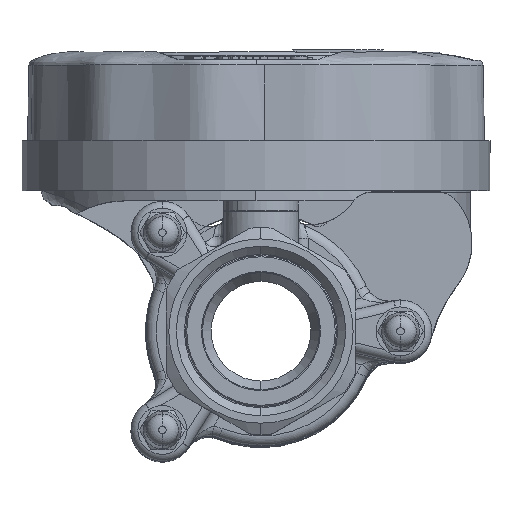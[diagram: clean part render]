
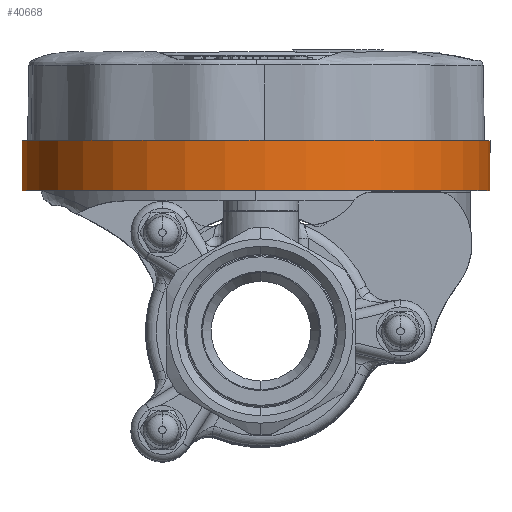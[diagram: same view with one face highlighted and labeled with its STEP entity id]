
A CAD part, top view. The second image highlights one B-rep face of the part: STEP entity #40668.
In plain terms, the highlighted cylindrical face has radius 47 mm (diameter 94 mm), a partial arc.
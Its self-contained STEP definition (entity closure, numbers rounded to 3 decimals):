
#72 = VECTOR ( 'NONE', #14882, 1000. ) ;
#1484 = DIRECTION ( 'NONE',  ( 0., -1., 0. ) ) ;
#3179 = ORIENTED_EDGE ( 'NONE', *, *, #10709, .F. ) ;
#4637 = CARTESIAN_POINT ( 'NONE',  ( -1., 28.3, 9.1 ) ) ;
#6469 = CARTESIAN_POINT ( 'NONE',  ( 45.963, 28.3, 7.235 ) ) ;
#6742 = AXIS2_PLACEMENT_3D ( 'NONE', #28143, #1484, #32667 ) ;
#8410 = DIRECTION ( 'NONE',  ( 0., -1., 0. ) ) ;
#9370 = CIRCLE ( 'NONE', #6742, 47. ) ;
#10709 = EDGE_CURVE ( 'NONE', #52523, #12108, #23735, .T. ) ;
#12108 = VERTEX_POINT ( 'NONE', #45381 ) ;
#12538 = FACE_OUTER_BOUND ( 'NONE', #54024, .T. ) ;
#14882 = DIRECTION ( 'NONE',  ( 0., -1., 0. ) ) ;
#15529 = EDGE_CURVE ( 'NONE', #25360, #12108, #49896, .T. ) ;
#18977 = CARTESIAN_POINT ( 'NONE',  ( -47.963, 38.3, 10.965 ) ) ;
#19873 = CARTESIAN_POINT ( 'NONE',  ( -47.963, 38.3, 10.965 ) ) ;
#23735 = CIRCLE ( 'NONE', #38430, 47. ) ;
#24326 = ORIENTED_EDGE ( 'NONE', *, *, #53664, .F. ) ;
#24412 = DIRECTION ( 'NONE',  ( 0., -1., 0. ) ) ;
#25360 = VERTEX_POINT ( 'NONE', #19873 ) ;
#26000 = ORIENTED_EDGE ( 'NONE', *, *, #15529, .T. ) ;
#26003 = VERTEX_POINT ( 'NONE', #36725 ) ;
#27156 = AXIS2_PLACEMENT_3D ( 'NONE', #56099, #24412, #51693 ) ;
#28143 = CARTESIAN_POINT ( 'NONE',  ( -1., 38.3, 9.1 ) ) ;
#30281 = CARTESIAN_POINT ( 'NONE',  ( 45.963, 38.3, 7.235 ) ) ;
#31697 = DIRECTION ( 'NONE',  ( -0.999, 0., 0.04 ) ) ;
#32053 = EDGE_CURVE ( 'NONE', #26003, #25360, #9370, .T. ) ;
#32667 = DIRECTION ( 'NONE',  ( -0.999, 0., 0.04 ) ) ;
#36229 = ORIENTED_EDGE ( 'NONE', *, *, #32053, .T. ) ;
#36725 = CARTESIAN_POINT ( 'NONE',  ( 45.963, 38.3, 7.235 ) ) ;
#38430 = AXIS2_PLACEMENT_3D ( 'NONE', #4637, #8410, #31697 ) ;
#40668 = ADVANCED_FACE ( 'NONE', ( #12538 ), #42054, .T. ) ;
#40833 = LINE ( 'NONE', #30281, #51514 ) ;
#42054 = CYLINDRICAL_SURFACE ( 'NONE', #27156, 47. ) ;
#43505 = DIRECTION ( 'NONE',  ( 0., -1., 0. ) ) ;
#45381 = CARTESIAN_POINT ( 'NONE',  ( -47.963, 28.3, 10.965 ) ) ;
#49896 = LINE ( 'NONE', #18977, #72 ) ;
#51514 = VECTOR ( 'NONE', #43505, 1000. ) ;
#51693 = DIRECTION ( 'NONE',  ( -0.999, 0., 0.04 ) ) ;
#52523 = VERTEX_POINT ( 'NONE', #6469 ) ;
#53664 = EDGE_CURVE ( 'NONE', #26003, #52523, #40833, .T. ) ;
#54024 = EDGE_LOOP ( 'NONE', ( #24326, #36229, #26000, #3179 ) ) ;
#56099 = CARTESIAN_POINT ( 'NONE',  ( -1., 38.3, 9.1 ) ) ;
